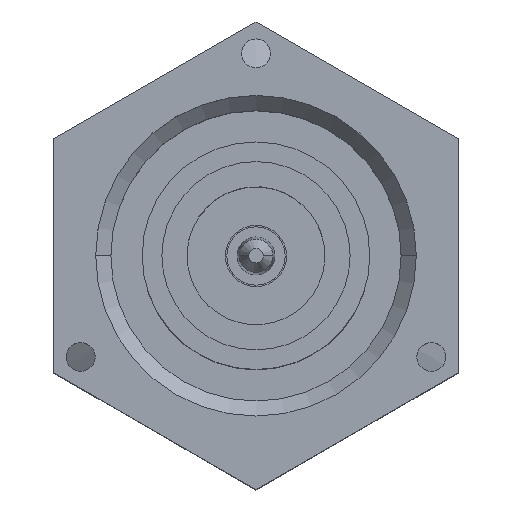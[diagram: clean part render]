
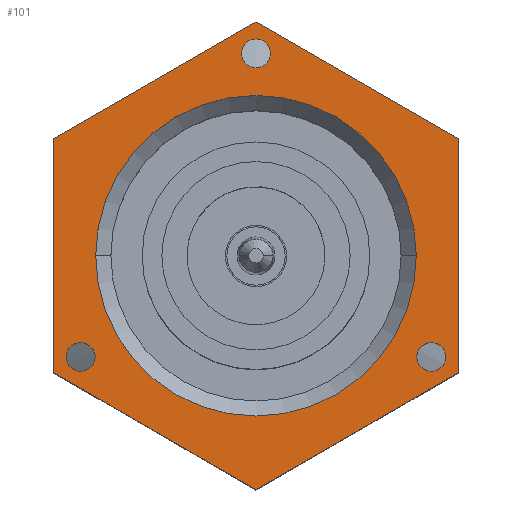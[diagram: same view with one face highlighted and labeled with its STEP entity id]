
A CAD part, top view. The second image highlights one B-rep face of the part: STEP entity #101.
In plain terms, the highlighted planar face has unit normal (0, 0, 1).
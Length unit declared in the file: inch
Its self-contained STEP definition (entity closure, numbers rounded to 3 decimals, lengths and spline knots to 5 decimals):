
#35 = CARTESIAN_POINT ( 'NONE',  ( -0.281, 0.16224, 0.002 ) ) ;
#50 = CIRCLE ( 'NONE', #1728, 0.02 ) ;
#101 = ADVANCED_FACE ( 'NONE', ( #388, #2772, #2159, #1530, #1096 ), #1586, .F. ) ;
#108 = ORIENTED_EDGE ( 'NONE', *, *, #1960, .T. ) ;
#119 = DIRECTION ( 'NONE',  ( 0., 0., 1. ) ) ;
#123 = DIRECTION ( 'NONE',  ( 0.866, -0.5, 0. ) ) ;
#168 = CARTESIAN_POINT ( 'NONE',  ( -0.281, -0.16224, 0.002 ) ) ;
#174 = EDGE_CURVE ( 'NONE', #1625, #1805, #2307, .T. ) ;
#199 = VERTEX_POINT ( 'NONE', #673 ) ;
#214 = ORIENTED_EDGE ( 'NONE', *, *, #1622, .F. ) ;
#226 = DIRECTION ( 'NONE',  ( 0., 0., -1. ) ) ;
#227 = CIRCLE ( 'NONE', #2551, 0.2225 ) ;
#242 = DIRECTION ( 'NONE',  ( -1., 0., 0. ) ) ;
#277 = DIRECTION ( 'NONE',  ( 0., -1., 0. ) ) ;
#299 = DIRECTION ( 'NONE',  ( 0., 0., 1. ) ) ;
#353 = DIRECTION ( 'NONE',  ( 0., 0., 1. ) ) ;
#371 = EDGE_CURVE ( 'NONE', #1805, #1625, #618, .T. ) ;
#384 = DIRECTION ( 'NONE',  ( 0.866, 0.5, 0. ) ) ;
#385 = VERTEX_POINT ( 'NONE', #2862 ) ;
#388 = FACE_BOUND ( 'NONE', #1660, .T. ) ;
#390 = EDGE_CURVE ( 'NONE', #2181, #199, #2418, .T. ) ;
#401 = LINE ( 'NONE', #1747, #1545 ) ;
#402 = EDGE_CURVE ( 'NONE', #1086, #2918, #50, .T. ) ;
#422 = CARTESIAN_POINT ( 'NONE',  ( 0.02, 0.281, 0.002 ) ) ;
#464 = EDGE_LOOP ( 'NONE', ( #1369, #564, #108, #1482, #2442, #1350 ) ) ;
#506 = CARTESIAN_POINT ( 'NONE',  ( -0.22335, -0.1405, 0.002 ) ) ;
#516 = DIRECTION ( 'NONE',  ( 1., 0., 0. ) ) ;
#557 = EDGE_CURVE ( 'NONE', #2624, #385, #401, .T. ) ;
#563 = EDGE_CURVE ( 'NONE', #2985, #2624, #2023, .T. ) ;
#564 = ORIENTED_EDGE ( 'NONE', *, *, #390, .T. ) ;
#618 = CIRCLE ( 'NONE', #1461, 0.02 ) ;
#665 = ORIENTED_EDGE ( 'NONE', *, *, #1688, .F. ) ;
#673 = CARTESIAN_POINT ( 'NONE',  ( -0.281, 0.16224, 0.002 ) ) ;
#690 = DIRECTION ( 'NONE',  ( -0.5, -0.866, 0. ) ) ;
#705 = DIRECTION ( 'NONE',  ( -0.5, 0.866, 0. ) ) ;
#710 = DIRECTION ( 'NONE',  ( 1., 0., 0. ) ) ;
#712 = DIRECTION ( 'NONE',  ( 0., 0., 1. ) ) ;
#736 = EDGE_LOOP ( 'NONE', ( #665, #2343 ) ) ;
#778 = EDGE_CURVE ( 'NONE', #862, #1496, #227, .T. ) ;
#791 = DIRECTION ( 'NONE',  ( 0., 0., 1. ) ) ;
#792 = LINE ( 'NONE', #168, #2518 ) ;
#803 = CARTESIAN_POINT ( 'NONE',  ( -0.281, -0.16224, 0.002 ) ) ;
#850 = DIRECTION ( 'NONE',  ( -0.866, 0.5, 0. ) ) ;
#862 = VERTEX_POINT ( 'NONE', #2040 ) ;
#876 = CARTESIAN_POINT ( 'NONE',  ( -0.2225, 0., 0.002 ) ) ;
#945 = EDGE_LOOP ( 'NONE', ( #1268, #2945 ) ) ;
#1005 = VECTOR ( 'NONE', #2641, 39.37008 ) ;
#1028 = DIRECTION ( 'NONE',  ( -0.5, 0.866, 0. ) ) ;
#1042 = VECTOR ( 'NONE', #384, 39.37008 ) ;
#1086 = VERTEX_POINT ( 'NONE', #506 ) ;
#1096 = FACE_OUTER_BOUND ( 'NONE', #464, .T. ) ;
#1186 = VECTOR ( 'NONE', #277, 39.37008 ) ;
#1194 = CARTESIAN_POINT ( 'NONE',  ( 0.281, -0.16224, 0.002 ) ) ;
#1212 = AXIS2_PLACEMENT_3D ( 'NONE', #1374, #2517, #705 ) ;
#1254 = CIRCLE ( 'NONE', #2637, 0.02 ) ;
#1264 = LINE ( 'NONE', #2983, #1518 ) ;
#1268 = ORIENTED_EDGE ( 'NONE', *, *, #778, .F. ) ;
#1291 = CARTESIAN_POINT ( 'NONE',  ( -0.26335, -0.1405, 0.002 ) ) ;
#1335 = CARTESIAN_POINT ( 'NONE',  ( -0.02, 0.281, 0.002 ) ) ;
#1342 = VERTEX_POINT ( 'NONE', #803 ) ;
#1350 = ORIENTED_EDGE ( 'NONE', *, *, #557, .T. ) ;
#1369 = ORIENTED_EDGE ( 'NONE', *, *, #1534, .T. ) ;
#1371 = EDGE_LOOP ( 'NONE', ( #1452, #2662 ) ) ;
#1374 = CARTESIAN_POINT ( 'NONE',  ( -0.24335, -0.1405, 0.002 ) ) ;
#1444 = VERTEX_POINT ( 'NONE', #422 ) ;
#1452 = ORIENTED_EDGE ( 'NONE', *, *, #174, .F. ) ;
#1458 = CARTESIAN_POINT ( 'NONE',  ( -0.24335, -0.1405, 0.002 ) ) ;
#1461 = AXIS2_PLACEMENT_3D ( 'NONE', #1711, #791, #1954 ) ;
#1482 = ORIENTED_EDGE ( 'NONE', *, *, #2783, .T. ) ;
#1496 = VERTEX_POINT ( 'NONE', #876 ) ;
#1518 = VECTOR ( 'NONE', #850, 39.37008 ) ;
#1521 = DIRECTION ( 'NONE',  ( 0., 1., 0. ) ) ;
#1530 = FACE_BOUND ( 'NONE', #945, .T. ) ;
#1534 = EDGE_CURVE ( 'NONE', #385, #2181, #1264, .T. ) ;
#1545 = VECTOR ( 'NONE', #1521, 39.37008 ) ;
#1586 = PLANE ( 'NONE',  #2357 ) ;
#1622 = EDGE_CURVE ( 'NONE', #2918, #1086, #2214, .T. ) ;
#1625 = VERTEX_POINT ( 'NONE', #2327 ) ;
#1660 = EDGE_LOOP ( 'NONE', ( #2257, #214 ) ) ;
#1688 = EDGE_CURVE ( 'NONE', #1444, #2146, #2422, .T. ) ;
#1710 = CARTESIAN_POINT ( 'NONE',  ( 0., 0., 0.002 ) ) ;
#1711 = CARTESIAN_POINT ( 'NONE',  ( 0.24335, -0.1405, 0.002 ) ) ;
#1728 = AXIS2_PLACEMENT_3D ( 'NONE', #1458, #119, #1028 ) ;
#1747 = CARTESIAN_POINT ( 'NONE',  ( 0.281, -0.16224, 0.002 ) ) ;
#1805 = VERTEX_POINT ( 'NONE', #1863 ) ;
#1852 = CARTESIAN_POINT ( 'NONE',  ( 0., 0., 0.002 ) ) ;
#1863 = CARTESIAN_POINT ( 'NONE',  ( 0.22335, -0.1405, 0.002 ) ) ;
#1871 = CARTESIAN_POINT ( 'NONE',  ( 0., 0.32447, 0.002 ) ) ;
#1887 = CARTESIAN_POINT ( 'NONE',  ( 0., 0.281, 0.002 ) ) ;
#1954 = DIRECTION ( 'NONE',  ( -0.5, -0.866, 0. ) ) ;
#1960 = EDGE_CURVE ( 'NONE', #199, #1342, #2530, .T. ) ;
#2023 = LINE ( 'NONE', #2706, #1042 ) ;
#2040 = CARTESIAN_POINT ( 'NONE',  ( 0.2225, 0., 0.002 ) ) ;
#2088 = CARTESIAN_POINT ( 'NONE',  ( 0.24335, -0.1405, 0.002 ) ) ;
#2146 = VERTEX_POINT ( 'NONE', #1335 ) ;
#2159 = FACE_BOUND ( 'NONE', #736, .T. ) ;
#2181 = VERTEX_POINT ( 'NONE', #1871 ) ;
#2210 = AXIS2_PLACEMENT_3D ( 'NONE', #2088, #712, #690 ) ;
#2214 = CIRCLE ( 'NONE', #1212, 0.02 ) ;
#2257 = ORIENTED_EDGE ( 'NONE', *, *, #402, .F. ) ;
#2307 = CIRCLE ( 'NONE', #2210, 0.02 ) ;
#2319 = AXIS2_PLACEMENT_3D ( 'NONE', #2333, #2355, #2821 ) ;
#2327 = CARTESIAN_POINT ( 'NONE',  ( 0.26335, -0.1405, 0.002 ) ) ;
#2330 = DIRECTION ( 'NONE',  ( 0., 0., 1. ) ) ;
#2333 = CARTESIAN_POINT ( 'NONE',  ( 0., 0.281, 0.002 ) ) ;
#2343 = ORIENTED_EDGE ( 'NONE', *, *, #2626, .F. ) ;
#2355 = DIRECTION ( 'NONE',  ( 0., 0., 1. ) ) ;
#2357 = AXIS2_PLACEMENT_3D ( 'NONE', #2758, #226, #242 ) ;
#2358 = CARTESIAN_POINT ( 'NONE',  ( 0., -0.32447, 0.002 ) ) ;
#2395 = CARTESIAN_POINT ( 'NONE',  ( 0., 0.32447, 0.002 ) ) ;
#2409 = DIRECTION ( 'NONE',  ( 1., 0., 0. ) ) ;
#2418 = LINE ( 'NONE', #2395, #1005 ) ;
#2422 = CIRCLE ( 'NONE', #2319, 0.02 ) ;
#2442 = ORIENTED_EDGE ( 'NONE', *, *, #563, .T. ) ;
#2517 = DIRECTION ( 'NONE',  ( 0., 0., 1. ) ) ;
#2518 = VECTOR ( 'NONE', #123, 39.37008 ) ;
#2530 = LINE ( 'NONE', #35, #1186 ) ;
#2551 = AXIS2_PLACEMENT_3D ( 'NONE', #1710, #353, #2409 ) ;
#2624 = VERTEX_POINT ( 'NONE', #1194 ) ;
#2626 = EDGE_CURVE ( 'NONE', #2146, #1444, #1254, .T. ) ;
#2632 = EDGE_CURVE ( 'NONE', #1496, #862, #2745, .T. ) ;
#2637 = AXIS2_PLACEMENT_3D ( 'NONE', #1887, #299, #516 ) ;
#2641 = DIRECTION ( 'NONE',  ( -0.866, -0.5, 0. ) ) ;
#2662 = ORIENTED_EDGE ( 'NONE', *, *, #371, .F. ) ;
#2706 = CARTESIAN_POINT ( 'NONE',  ( 0., -0.32447, 0.002 ) ) ;
#2738 = AXIS2_PLACEMENT_3D ( 'NONE', #1852, #2330, #710 ) ;
#2745 = CIRCLE ( 'NONE', #2738, 0.2225 ) ;
#2758 = CARTESIAN_POINT ( 'NONE',  ( 0., 0.2225, 0.002 ) ) ;
#2772 = FACE_BOUND ( 'NONE', #1371, .T. ) ;
#2783 = EDGE_CURVE ( 'NONE', #1342, #2985, #792, .T. ) ;
#2821 = DIRECTION ( 'NONE',  ( 1., 0., 0. ) ) ;
#2862 = CARTESIAN_POINT ( 'NONE',  ( 0.281, 0.16224, 0.002 ) ) ;
#2918 = VERTEX_POINT ( 'NONE', #1291 ) ;
#2945 = ORIENTED_EDGE ( 'NONE', *, *, #2632, .F. ) ;
#2983 = CARTESIAN_POINT ( 'NONE',  ( 0.281, 0.16224, 0.002 ) ) ;
#2985 = VERTEX_POINT ( 'NONE', #2358 ) ;
